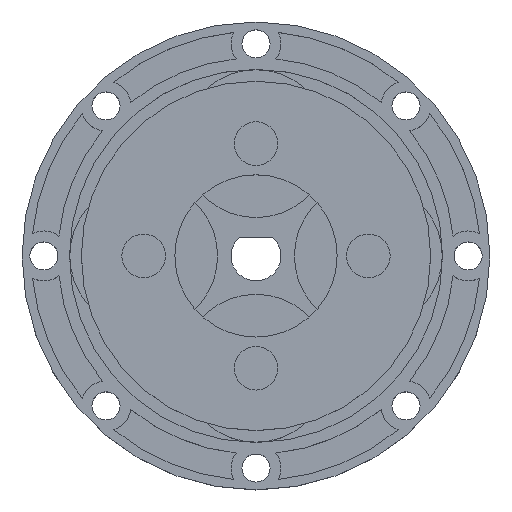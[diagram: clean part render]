
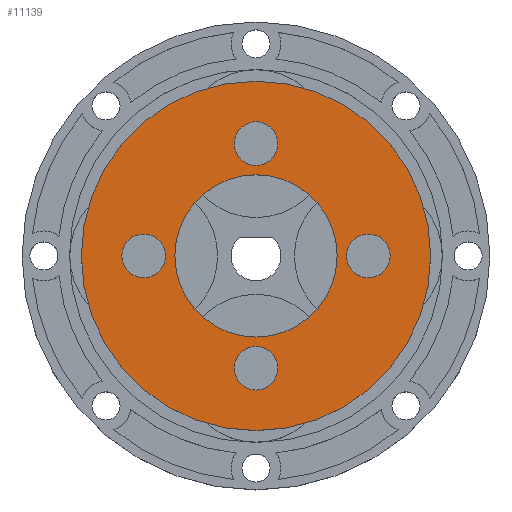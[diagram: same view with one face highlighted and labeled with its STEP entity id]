
A CAD part, top view. The second image highlights one B-rep face of the part: STEP entity #11139.
In plain terms, the highlighted planar face has unit normal (0, 0, 1).
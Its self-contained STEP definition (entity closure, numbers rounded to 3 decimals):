
#22 = CIRCLE ( 'NONE', #2778, 3.5 ) ;
#302 = DIRECTION ( 'NONE',  ( 0., 0., 1. ) ) ;
#369 = AXIS2_PLACEMENT_3D ( 'NONE', #9775, #4690, #10800 ) ;
#379 = CARTESIAN_POINT ( 'NONE',  ( -18., 3.5, 8.35 ) ) ;
#421 = DIRECTION ( 'NONE',  ( 0., 0., 1. ) ) ;
#429 = AXIS2_PLACEMENT_3D ( 'NONE', #2950, #302, #9902 ) ;
#447 = VERTEX_POINT ( 'NONE', #3914 ) ;
#521 = CARTESIAN_POINT ( 'NONE',  ( -3.5, 18., 8.35 ) ) ;
#535 = ORIENTED_EDGE ( 'NONE', *, *, #1930, .F. ) ;
#642 = FACE_BOUND ( 'NONE', #5331, .T. ) ;
#655 = VERTEX_POINT ( 'NONE', #9333 ) ;
#774 = ORIENTED_EDGE ( 'NONE', *, *, #5059, .F. ) ;
#893 = VERTEX_POINT ( 'NONE', #9824 ) ;
#896 = CIRCLE ( 'NONE', #7616, 28. ) ;
#1131 = CARTESIAN_POINT ( 'NONE',  ( 0., 0., 8.35 ) ) ;
#1182 = ORIENTED_EDGE ( 'NONE', *, *, #2092, .T. ) ;
#1234 = CARTESIAN_POINT ( 'NONE',  ( 18., 0., 8.35 ) ) ;
#1272 = ORIENTED_EDGE ( 'NONE', *, *, #5124, .F. ) ;
#1294 = ORIENTED_EDGE ( 'NONE', *, *, #4049, .F. ) ;
#1480 = AXIS2_PLACEMENT_3D ( 'NONE', #1649, #8616, #8445 ) ;
#1637 = EDGE_CURVE ( 'NONE', #2292, #4054, #9098, .T. ) ;
#1649 = CARTESIAN_POINT ( 'NONE',  ( -18., 0., 8.35 ) ) ;
#1728 = DIRECTION ( 'NONE',  ( 0., 0., 1. ) ) ;
#1814 = CIRCLE ( 'NONE', #7632, 3.5 ) ;
#1886 = CARTESIAN_POINT ( 'NONE',  ( 0., -18., 8.35 ) ) ;
#1917 = DIRECTION ( 'NONE',  ( 1., 0., 0. ) ) ;
#1930 = EDGE_CURVE ( 'NONE', #9494, #4901, #6706, .T. ) ;
#2092 = EDGE_CURVE ( 'NONE', #4054, #2292, #896, .T. ) ;
#2116 = ORIENTED_EDGE ( 'NONE', *, *, #2925, .F. ) ;
#2157 = CIRCLE ( 'NONE', #3626, 3.5 ) ;
#2292 = VERTEX_POINT ( 'NONE', #5081 ) ;
#2425 = FACE_BOUND ( 'NONE', #4623, .T. ) ;
#2502 = CARTESIAN_POINT ( 'NONE',  ( -18., 0., 8.35 ) ) ;
#2713 = AXIS2_PLACEMENT_3D ( 'NONE', #7089, #10586, #3696 ) ;
#2752 = EDGE_LOOP ( 'NONE', ( #1182, #4785 ) ) ;
#2778 = AXIS2_PLACEMENT_3D ( 'NONE', #3119, #421, #10915 ) ;
#2925 = EDGE_CURVE ( 'NONE', #447, #893, #4359, .T. ) ;
#2950 = CARTESIAN_POINT ( 'NONE',  ( 0., -18., 8.35 ) ) ;
#2971 = CARTESIAN_POINT ( 'NONE',  ( 18., 3.5, 8.35 ) ) ;
#3119 = CARTESIAN_POINT ( 'NONE',  ( 0., 18., 8.35 ) ) ;
#3178 = ORIENTED_EDGE ( 'NONE', *, *, #6760, .F. ) ;
#3275 = FACE_BOUND ( 'NONE', #10472, .T. ) ;
#3312 = DIRECTION ( 'NONE',  ( 0., 0., 1. ) ) ;
#3626 = AXIS2_PLACEMENT_3D ( 'NONE', #3752, #7155, #1917 ) ;
#3696 = DIRECTION ( 'NONE',  ( 1., 0., 0. ) ) ;
#3717 = EDGE_LOOP ( 'NONE', ( #7647, #6377 ) ) ;
#3752 = CARTESIAN_POINT ( 'NONE',  ( 0., 18., 8.35 ) ) ;
#3847 = CIRCLE ( 'NONE', #369, 13. ) ;
#3914 = CARTESIAN_POINT ( 'NONE',  ( 13., 0., 8.35 ) ) ;
#4042 = AXIS2_PLACEMENT_3D ( 'NONE', #2502, #3312, #9411 ) ;
#4049 = EDGE_CURVE ( 'NONE', #7994, #10425, #22, .T. ) ;
#4054 = VERTEX_POINT ( 'NONE', #5773 ) ;
#4254 = DIRECTION ( 'NONE',  ( 0., 0., 1. ) ) ;
#4359 = CIRCLE ( 'NONE', #10752, 13. ) ;
#4573 = CARTESIAN_POINT ( 'NONE',  ( -3.5, -18., 8.35 ) ) ;
#4579 = ORIENTED_EDGE ( 'NONE', *, *, #10419, .F. ) ;
#4623 = EDGE_LOOP ( 'NONE', ( #3178, #535 ) ) ;
#4690 = DIRECTION ( 'NONE',  ( 0., 0., 1. ) ) ;
#4785 = ORIENTED_EDGE ( 'NONE', *, *, #1637, .T. ) ;
#4795 = EDGE_CURVE ( 'NONE', #655, #6105, #9721, .T. ) ;
#4901 = VERTEX_POINT ( 'NONE', #2971 ) ;
#4979 = DIRECTION ( 'NONE',  ( 0., 0., 1. ) ) ;
#5059 = EDGE_CURVE ( 'NONE', #5349, #10719, #5852, .T. ) ;
#5081 = CARTESIAN_POINT ( 'NONE',  ( 28., 0., 8.35 ) ) ;
#5124 = EDGE_CURVE ( 'NONE', #10719, #5349, #8787, .T. ) ;
#5331 = EDGE_LOOP ( 'NONE', ( #1272, #774 ) ) ;
#5349 = VERTEX_POINT ( 'NONE', #379 ) ;
#5721 = FACE_BOUND ( 'NONE', #3717, .T. ) ;
#5773 = CARTESIAN_POINT ( 'NONE',  ( -28., 0., 8.35 ) ) ;
#5852 = CIRCLE ( 'NONE', #4042, 3.5 ) ;
#5874 = ORIENTED_EDGE ( 'NONE', *, *, #7401, .F. ) ;
#5891 = DIRECTION ( 'NONE',  ( 1., 0., 0. ) ) ;
#6105 = VERTEX_POINT ( 'NONE', #4573 ) ;
#6215 = DIRECTION ( 'NONE',  ( -1., 0., 0. ) ) ;
#6332 = CARTESIAN_POINT ( 'NONE',  ( 0., 0., 8.35 ) ) ;
#6377 = ORIENTED_EDGE ( 'NONE', *, *, #9347, .F. ) ;
#6472 = DIRECTION ( 'NONE',  ( 0., -1., 0. ) ) ;
#6673 = FACE_OUTER_BOUND ( 'NONE', #2752, .T. ) ;
#6706 = CIRCLE ( 'NONE', #9817, 3.5 ) ;
#6760 = EDGE_CURVE ( 'NONE', #4901, #9494, #1814, .T. ) ;
#6800 = CARTESIAN_POINT ( 'NONE',  ( 18., 0., 8.35 ) ) ;
#7089 = CARTESIAN_POINT ( 'NONE',  ( 0., 0., 8.35 ) ) ;
#7155 = DIRECTION ( 'NONE',  ( 0., 0., 1. ) ) ;
#7401 = EDGE_CURVE ( 'NONE', #893, #447, #3847, .T. ) ;
#7616 = AXIS2_PLACEMENT_3D ( 'NONE', #6332, #1728, #8694 ) ;
#7632 = AXIS2_PLACEMENT_3D ( 'NONE', #1234, #8200, #6472 ) ;
#7647 = ORIENTED_EDGE ( 'NONE', *, *, #4795, .F. ) ;
#7662 = CARTESIAN_POINT ( 'NONE',  ( 18., -3.5, 8.35 ) ) ;
#7994 = VERTEX_POINT ( 'NONE', #521 ) ;
#8200 = DIRECTION ( 'NONE',  ( 0., 0., 1. ) ) ;
#8261 = CIRCLE ( 'NONE', #429, 3.5 ) ;
#8445 = DIRECTION ( 'NONE',  ( 0., 1., 0. ) ) ;
#8584 = FACE_BOUND ( 'NONE', #9422, .T. ) ;
#8616 = DIRECTION ( 'NONE',  ( 0., 0., 1. ) ) ;
#8694 = DIRECTION ( 'NONE',  ( 1., 0., 0. ) ) ;
#8787 = CIRCLE ( 'NONE', #1480, 3.5 ) ;
#8817 = AXIS2_PLACEMENT_3D ( 'NONE', #1886, #10616, #6215 ) ;
#9098 = CIRCLE ( 'NONE', #2713, 28. ) ;
#9115 = AXIS2_PLACEMENT_3D ( 'NONE', #9331, #4979, #5891 ) ;
#9221 = PLANE ( 'NONE',  #9115 ) ;
#9331 = CARTESIAN_POINT ( 'NONE',  ( 0., 0., 8.35 ) ) ;
#9333 = CARTESIAN_POINT ( 'NONE',  ( 3.5, -18., 8.35 ) ) ;
#9347 = EDGE_CURVE ( 'NONE', #6105, #655, #8261, .T. ) ;
#9393 = CARTESIAN_POINT ( 'NONE',  ( -18., -3.5, 8.35 ) ) ;
#9411 = DIRECTION ( 'NONE',  ( 0., 1., 0. ) ) ;
#9422 = EDGE_LOOP ( 'NONE', ( #1294, #4579 ) ) ;
#9494 = VERTEX_POINT ( 'NONE', #7662 ) ;
#9631 = CARTESIAN_POINT ( 'NONE',  ( 3.5, 18., 8.35 ) ) ;
#9721 = CIRCLE ( 'NONE', #8817, 3.5 ) ;
#9775 = CARTESIAN_POINT ( 'NONE',  ( 0., 0., 8.35 ) ) ;
#9794 = DIRECTION ( 'NONE',  ( 0., 0., 1. ) ) ;
#9817 = AXIS2_PLACEMENT_3D ( 'NONE', #6800, #4254, #11022 ) ;
#9824 = CARTESIAN_POINT ( 'NONE',  ( -13., 0., 8.35 ) ) ;
#9902 = DIRECTION ( 'NONE',  ( -1., 0., 0. ) ) ;
#9960 = DIRECTION ( 'NONE',  ( 1., 0., 0. ) ) ;
#10419 = EDGE_CURVE ( 'NONE', #10425, #7994, #2157, .T. ) ;
#10425 = VERTEX_POINT ( 'NONE', #9631 ) ;
#10472 = EDGE_LOOP ( 'NONE', ( #5874, #2116 ) ) ;
#10586 = DIRECTION ( 'NONE',  ( 0., 0., 1. ) ) ;
#10616 = DIRECTION ( 'NONE',  ( 0., 0., 1. ) ) ;
#10719 = VERTEX_POINT ( 'NONE', #9393 ) ;
#10752 = AXIS2_PLACEMENT_3D ( 'NONE', #1131, #9794, #9960 ) ;
#10800 = DIRECTION ( 'NONE',  ( 1., 0., 0. ) ) ;
#10915 = DIRECTION ( 'NONE',  ( 1., 0., 0. ) ) ;
#11022 = DIRECTION ( 'NONE',  ( 0., -1., 0. ) ) ;
#11139 = ADVANCED_FACE ( 'NONE', ( #642, #5721, #2425, #8584, #6673, #3275 ), #9221, .T. ) ;
